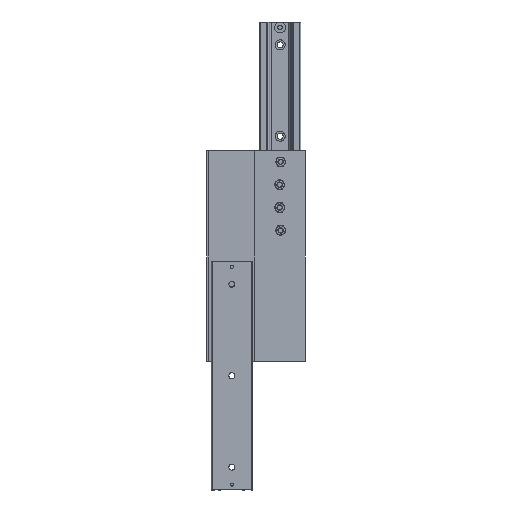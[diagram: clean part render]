
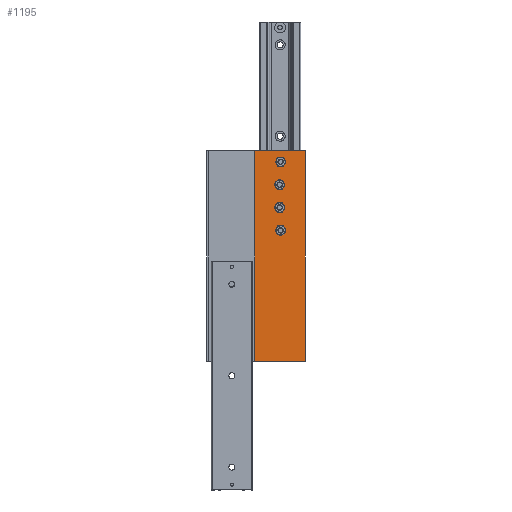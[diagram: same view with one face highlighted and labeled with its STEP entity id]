
A CAD part, left-side view. The second image highlights one B-rep face of the part: STEP entity #1195.
In plain terms, the highlighted planar face has unit normal (-1, 0, 0).
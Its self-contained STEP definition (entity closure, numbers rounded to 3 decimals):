
#69 = EDGE_CURVE ( 'NONE', #4566, #9474, #544, .T. ) ;
#133 = VECTOR ( 'NONE', #8363, 1000. ) ;
#228 = EDGE_CURVE ( 'NONE', #2870, #6463, #3164, .T. ) ;
#285 = EDGE_CURVE ( 'NONE', #8472, #12091, #7845, .T. ) ;
#321 = EDGE_CURVE ( 'NONE', #7956, #7846, #5452, .T. ) ;
#351 = CIRCLE ( 'NONE', #5010, 5.25 ) ;
#359 = EDGE_LOOP ( 'NONE', ( #3024, #7334 ) ) ;
#430 = CARTESIAN_POINT ( 'NONE',  ( 0., 27.2, 143. ) ) ;
#440 = EDGE_CURVE ( 'NONE', #9474, #4566, #351, .T. ) ;
#544 = CIRCLE ( 'NONE', #1157, 5.25 ) ;
#916 = DIRECTION ( 'NONE',  ( 0., 0., 1. ) ) ;
#934 = CARTESIAN_POINT ( 'NONE',  ( 0., 0., 0. ) ) ;
#946 = CARTESIAN_POINT ( 'NONE',  ( 0., 28.2, 193. ) ) ;
#1025 = DIRECTION ( 'NONE',  ( 0., 0., 1. ) ) ;
#1035 = CARTESIAN_POINT ( 'NONE',  ( 0., 0., 0. ) ) ;
#1147 = CARTESIAN_POINT ( 'NONE',  ( 0., 27.2, 143. ) ) ;
#1157 = AXIS2_PLACEMENT_3D ( 'NONE', #4701, #3998, #3817 ) ;
#1195 = ADVANCED_FACE ( 'NONE', ( #10912, #5940, #11751, #6896, #2130 ), #8799, .T. ) ;
#1254 = CARTESIAN_POINT ( 'NONE',  ( 0., 0., 230. ) ) ;
#1370 = CARTESIAN_POINT ( 'NONE',  ( 0., 28.2, 187.75 ) ) ;
#1450 = CARTESIAN_POINT ( 'NONE',  ( 0., 28.2, 198.25 ) ) ;
#1457 = CARTESIAN_POINT ( 'NONE',  ( 0., 27.2, 218. ) ) ;
#1506 = ORIENTED_EDGE ( 'NONE', *, *, #10711, .F. ) ;
#1509 = VERTEX_POINT ( 'NONE', #934 ) ;
#1514 = VECTOR ( 'NONE', #11892, 1000. ) ;
#1580 = EDGE_CURVE ( 'NONE', #7846, #10773, #6883, .T. ) ;
#1584 = CARTESIAN_POINT ( 'NONE',  ( 0., 27.2, 218. ) ) ;
#1603 = ORIENTED_EDGE ( 'NONE', *, *, #321, .T. ) ;
#1650 = CARTESIAN_POINT ( 'NONE',  ( 0., 0., 230. ) ) ;
#1687 = EDGE_LOOP ( 'NONE', ( #2068, #3566 ) ) ;
#1944 = EDGE_CURVE ( 'NONE', #2190, #7378, #12085, .T. ) ;
#1972 = AXIS2_PLACEMENT_3D ( 'NONE', #1457, #10140, #8433 ) ;
#2068 = ORIENTED_EDGE ( 'NONE', *, *, #69, .F. ) ;
#2130 = FACE_OUTER_BOUND ( 'NONE', #6906, .T. ) ;
#2166 = EDGE_CURVE ( 'NONE', #7378, #2190, #8238, .T. ) ;
#2180 = EDGE_CURVE ( 'NONE', #7956, #1509, #12254, .T. ) ;
#2190 = VERTEX_POINT ( 'NONE', #11183 ) ;
#2640 = ORIENTED_EDGE ( 'NONE', *, *, #12510, .F. ) ;
#2870 = VERTEX_POINT ( 'NONE', #6003 ) ;
#3024 = ORIENTED_EDGE ( 'NONE', *, *, #2166, .F. ) ;
#3088 = DIRECTION ( 'NONE',  ( -1., 0., 0. ) ) ;
#3164 = CIRCLE ( 'NONE', #8040, 5.25 ) ;
#3566 = ORIENTED_EDGE ( 'NONE', *, *, #440, .F. ) ;
#3817 = DIRECTION ( 'NONE',  ( 0., 0., 1. ) ) ;
#3925 = DIRECTION ( 'NONE',  ( -1., 0., 0. ) ) ;
#3998 = DIRECTION ( 'NONE',  ( -1., 0., 0. ) ) ;
#4266 = ORIENTED_EDGE ( 'NONE', *, *, #1580, .T. ) ;
#4490 = DIRECTION ( 'NONE',  ( -1., 0., 0. ) ) ;
#4566 = VERTEX_POINT ( 'NONE', #1370 ) ;
#4624 = DIRECTION ( 'NONE',  ( 0., 0., 1. ) ) ;
#4701 = CARTESIAN_POINT ( 'NONE',  ( 0., 28.2, 193. ) ) ;
#5010 = AXIS2_PLACEMENT_3D ( 'NONE', #946, #8739, #6705 ) ;
#5187 = VECTOR ( 'NONE', #12328, 1000. ) ;
#5416 = CIRCLE ( 'NONE', #5825, 5.25 ) ;
#5452 = LINE ( 'NONE', #7482, #133 ) ;
#5581 = CARTESIAN_POINT ( 'NONE',  ( 0., 28.2, 168. ) ) ;
#5667 = ORIENTED_EDGE ( 'NONE', *, *, #10059, .F. ) ;
#5825 = AXIS2_PLACEMENT_3D ( 'NONE', #1147, #3925, #1025 ) ;
#5940 = FACE_BOUND ( 'NONE', #359, .T. ) ;
#5973 = AXIS2_PLACEMENT_3D ( 'NONE', #1584, #7536, #4624 ) ;
#6000 = CARTESIAN_POINT ( 'NONE',  ( 0., 55.4, 230. ) ) ;
#6003 = CARTESIAN_POINT ( 'NONE',  ( 0., 27.2, 148.25 ) ) ;
#6271 = DIRECTION ( 'NONE',  ( 0., 0., 1. ) ) ;
#6463 = VERTEX_POINT ( 'NONE', #10801 ) ;
#6473 = ORIENTED_EDGE ( 'NONE', *, *, #228, .F. ) ;
#6644 = CARTESIAN_POINT ( 'NONE',  ( 0., 55.4, 0. ) ) ;
#6705 = DIRECTION ( 'NONE',  ( 0., 0., 1. ) ) ;
#6883 = LINE ( 'NONE', #6000, #9863 ) ;
#6896 = FACE_BOUND ( 'NONE', #12057, .T. ) ;
#6906 = EDGE_LOOP ( 'NONE', ( #5667, #10312, #1603, #4266 ) ) ;
#7032 = DIRECTION ( 'NONE',  ( 0., 0., 1. ) ) ;
#7078 = DIRECTION ( 'NONE',  ( 0., 0., 1. ) ) ;
#7334 = ORIENTED_EDGE ( 'NONE', *, *, #1944, .F. ) ;
#7378 = VERTEX_POINT ( 'NONE', #12081 ) ;
#7482 = CARTESIAN_POINT ( 'NONE',  ( 0., 0., 230. ) ) ;
#7536 = DIRECTION ( 'NONE',  ( -1., 0., 0. ) ) ;
#7845 = CIRCLE ( 'NONE', #1972, 5.25 ) ;
#7846 = VERTEX_POINT ( 'NONE', #12195 ) ;
#7884 = LINE ( 'NONE', #1035, #1514 ) ;
#7956 = VERTEX_POINT ( 'NONE', #1650 ) ;
#8025 = AXIS2_PLACEMENT_3D ( 'NONE', #12558, #10511, #916 ) ;
#8040 = AXIS2_PLACEMENT_3D ( 'NONE', #430, #3088, #7032 ) ;
#8238 = CIRCLE ( 'NONE', #12519, 5.25 ) ;
#8363 = DIRECTION ( 'NONE',  ( 0., 1., 0. ) ) ;
#8433 = DIRECTION ( 'NONE',  ( 0., 0., 1. ) ) ;
#8472 = VERTEX_POINT ( 'NONE', #9413 ) ;
#8739 = DIRECTION ( 'NONE',  ( -1., 0., 0. ) ) ;
#8799 = PLANE ( 'NONE',  #9487 ) ;
#9133 = EDGE_LOOP ( 'NONE', ( #2640, #6473 ) ) ;
#9183 = CARTESIAN_POINT ( 'NONE',  ( 0., 0., 230. ) ) ;
#9413 = CARTESIAN_POINT ( 'NONE',  ( 0., 27.2, 223.25 ) ) ;
#9474 = VERTEX_POINT ( 'NONE', #1450 ) ;
#9487 = AXIS2_PLACEMENT_3D ( 'NONE', #1254, #11683, #7078 ) ;
#9863 = VECTOR ( 'NONE', #10960, 1000. ) ;
#10059 = EDGE_CURVE ( 'NONE', #1509, #10773, #7884, .T. ) ;
#10140 = DIRECTION ( 'NONE',  ( -1., 0., 0. ) ) ;
#10312 = ORIENTED_EDGE ( 'NONE', *, *, #2180, .F. ) ;
#10511 = DIRECTION ( 'NONE',  ( -1., 0., 0. ) ) ;
#10711 = EDGE_CURVE ( 'NONE', #12091, #8472, #11467, .T. ) ;
#10773 = VERTEX_POINT ( 'NONE', #6644 ) ;
#10801 = CARTESIAN_POINT ( 'NONE',  ( 0., 27.2, 137.75 ) ) ;
#10912 = FACE_BOUND ( 'NONE', #9133, .T. ) ;
#10960 = DIRECTION ( 'NONE',  ( 0., 0., -1. ) ) ;
#11183 = CARTESIAN_POINT ( 'NONE',  ( 0., 28.2, 173.25 ) ) ;
#11467 = CIRCLE ( 'NONE', #5973, 5.25 ) ;
#11683 = DIRECTION ( 'NONE',  ( -1., 0., 0. ) ) ;
#11751 = FACE_BOUND ( 'NONE', #1687, .T. ) ;
#11892 = DIRECTION ( 'NONE',  ( 0., 1., 0. ) ) ;
#11893 = CARTESIAN_POINT ( 'NONE',  ( 0., 27.2, 212.75 ) ) ;
#12057 = EDGE_LOOP ( 'NONE', ( #1506, #12581 ) ) ;
#12081 = CARTESIAN_POINT ( 'NONE',  ( 0., 28.2, 162.75 ) ) ;
#12085 = CIRCLE ( 'NONE', #8025, 5.25 ) ;
#12091 = VERTEX_POINT ( 'NONE', #11893 ) ;
#12195 = CARTESIAN_POINT ( 'NONE',  ( 0., 55.4, 230. ) ) ;
#12254 = LINE ( 'NONE', #9183, #5187 ) ;
#12328 = DIRECTION ( 'NONE',  ( 0., 0., -1. ) ) ;
#12510 = EDGE_CURVE ( 'NONE', #6463, #2870, #5416, .T. ) ;
#12519 = AXIS2_PLACEMENT_3D ( 'NONE', #5581, #4490, #6271 ) ;
#12558 = CARTESIAN_POINT ( 'NONE',  ( 0., 28.2, 168. ) ) ;
#12581 = ORIENTED_EDGE ( 'NONE', *, *, #285, .F. ) ;
